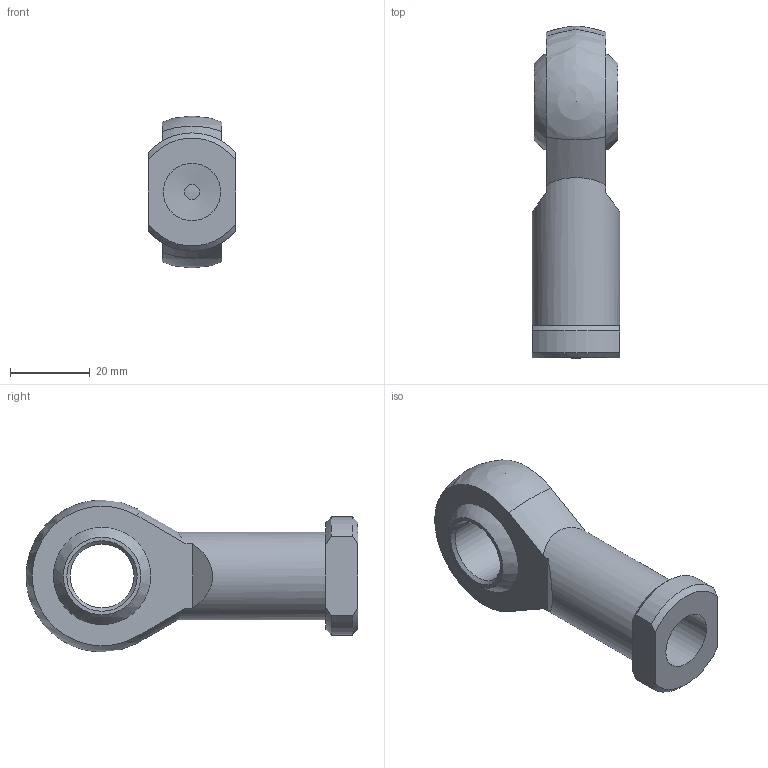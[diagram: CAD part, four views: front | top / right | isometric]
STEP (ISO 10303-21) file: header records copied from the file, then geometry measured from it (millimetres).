
FILE_DESCRIPTION(/* description */ ('Unknown'),/* implementation_level */ '2;1');
FILE_NAME(/* name */ 'WA50_WA63_J',/* time_stamp */ '2026-07-17T17:01:54+08:00',/* author */ ('Unknown'),/* organization */ ('Unknown'),/* preprocessor_version */ 'ST-DEVELOPER v16.7',/* originating_system */ 'DEX',/* authorisation */ $);
FILE_SCHEMA (('CONFIG_CONTROL_DESIGN'));
Length unit declared in the file: millimetre
Products named in the file (1): WA50_WA63_J
Bounding box: 22 x 83 x 38 mm (x, y, z)
Volume: 27526.2 mm3; surface area: 10052.7 mm2
Topology: 1 solids, 1 shells, 30 faces, 69 edges, 45 vertices
Faces by surface type: plane 11, cylinder 8, cone 7, sphere 4
Full cylindrical faces by diameter (mm): 3.75 x1, 14.376 x1, 16 x1, 22 x1
Entity records: 826 total; most frequent: CARTESIAN_POINT 161, DIRECTION 138, ORIENTED_EDGE 116, AXIS2_PLACEMENT_3D 59, EDGE_CURVE 58, EDGE_LOOP 44, FACE_BOUND 44, VERTEX_POINT 42
